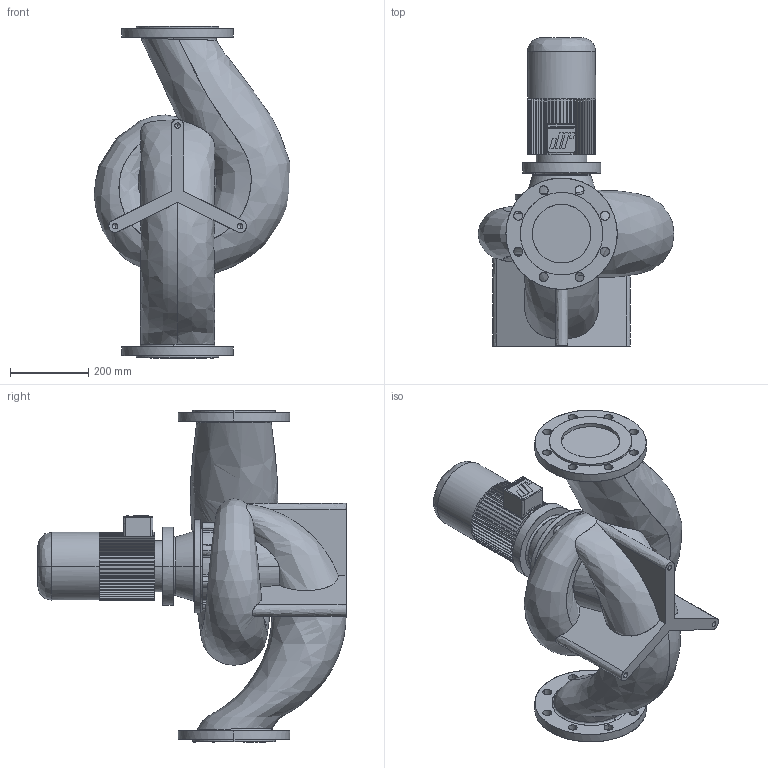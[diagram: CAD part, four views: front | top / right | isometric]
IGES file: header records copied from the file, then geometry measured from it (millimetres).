
Start section: CombiLine
Global section: file name: CLB_150-125_IEC90L_ND10.igs; native system:  By UGS Corp.; preprocessor: XPlus GENERIC/IGES 3.0; author: Stageplaats; organization: Johnson Pump Water B.V.; date: 20070718.092535; units: millimetre
Bounding box: 501.27 x 789 x 850 mm (x, y, z)
Surface area: 1786803.1 mm2 (no closed solid volume)
Topology: 0 solids, 0 shells, 549 faces, 3335 edges, 3329 vertices
Faces by surface type: bspline 549
